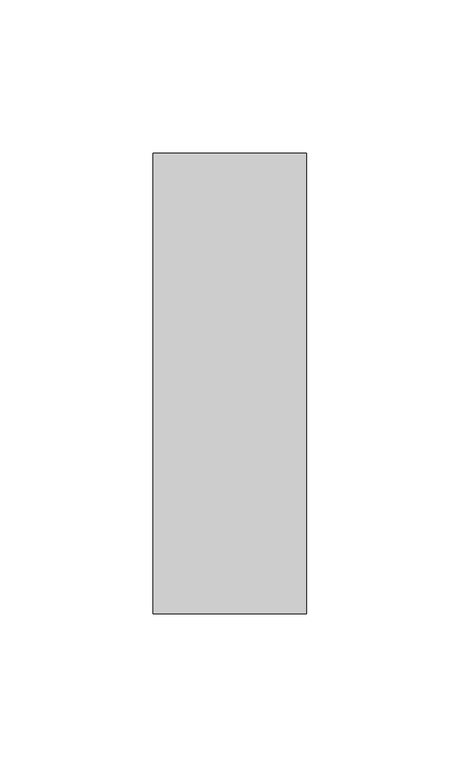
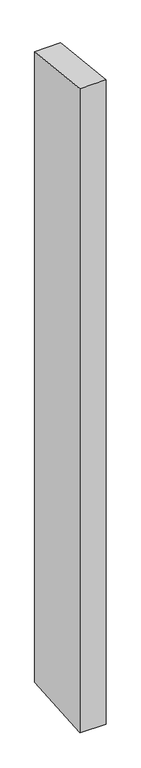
"""IFC4 building model written with IfcOpenShell, lengths in millimetres: member geometry, Прямоугольный импост : 50 x 150 мм."""

from ifc_helpers import new_model, si_unit, origin, place, context, project, spatial, faceted_brep, source, transform, mapped, element, save


def member_655e92a0(model_context):
    return source(origin(), model_context, "Body", "Brep", [
        faceted_brep([(-25.0, 75.0, -8.2994587), (25.0, 75.0, -8.0364981), (25.0, 75.0, -1286.1057096), (-25.0, 75.0, -1285.851982), (-25.0, -75.0, 8.0364981), (-25.0, -75.0, -1297.9102696), (25.0, -75.0, 8.2994587), (25.0, -75.0, -1298.1639972)], [[[0, 1, 2, 3]], [[4, 0, 3, 5]], [[6, 4, 5, 7]], [[1, 6, 7, 2]], [[1, 0, 4, 6]], [[2, 7, 5, 3]]]),
    ])


if __name__ == "__main__":
    model = new_model("IFC4")
    model_context = context("Model", 3, world=origin())
    ifc_project = project(units=[si_unit("LENGTHUNIT", "METRE", prefix="MILLI")], contexts=[model_context])
    site = spatial("IfcSite", under=ifc_project)
    building = spatial("IfcBuilding", under=site)
    placement = place(None, origin())
    member_shape = member_655e92a0(model_context)
    element("IfcMember", 1, ObjectType="Прямоугольный импост : 50 x 150 мм", at=placement, inside=building, context=model_context, shape_type="MappedRepresentation", body=[
        mapped(member_shape, transform((0.0, 0.0, 0.0), x_axis=(1.0, 0.0, 0.0), y_axis=(0.0, 1.0, 0.0), z_axis=(0.0, 0.0, 1.0))),
    ])
    save(model, "model.ifc")
